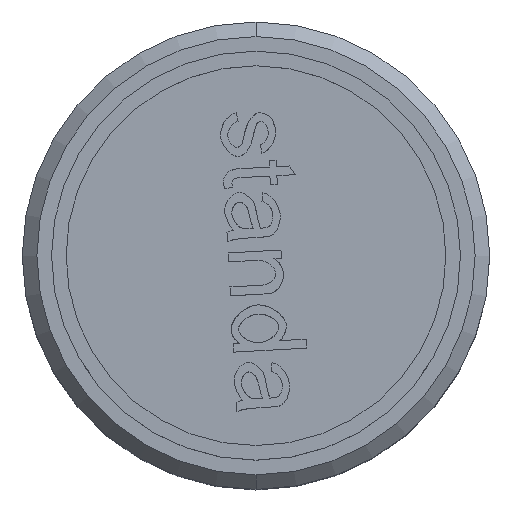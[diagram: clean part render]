
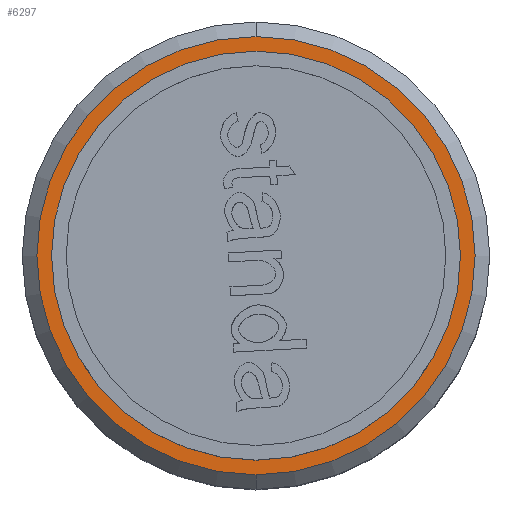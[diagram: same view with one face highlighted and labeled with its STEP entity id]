
A CAD part, top view. The second image highlights one B-rep face of the part: STEP entity #6297.
In plain terms, the highlighted planar face has unit normal (0, 0, 1).
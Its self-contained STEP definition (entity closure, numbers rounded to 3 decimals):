
#1443 = DIRECTION ( 'NONE',  ( 0., 1., 0. ) ) ;
#1444 = DIRECTION ( 'NONE',  ( 0., 0., -1. ) ) ;
#1445 = CARTESIAN_POINT ( 'NONE',  ( 0., 0., 30.5 ) ) ;
#1446 = AXIS2_PLACEMENT_3D ( 'NONE', #1445, #1444, #1443 ) ;
#1447 = CIRCLE ( 'NONE', #1446, 7.5 ) ;
#1448 = DIRECTION ( 'NONE',  ( 0., -1., 0. ) ) ;
#1449 = DIRECTION ( 'NONE',  ( 0., 0., 1. ) ) ;
#1450 = CARTESIAN_POINT ( 'NONE',  ( 5.769, -4.792, 30.5 ) ) ;
#1451 = AXIS2_PLACEMENT_3D ( 'NONE', #1450, #1449, #1448 ) ;
#1452 = FACE_BOUND ( 'NONE', #6302, .T. ) ;
#1453 = FACE_OUTER_BOUND ( 'NONE', #6298, .T. ) ;
#1457 = PLANE ( 'NONE',  #1451 ) ;
#1493 = DIRECTION ( 'NONE',  ( 1., 0., 0. ) ) ;
#1494 = DIRECTION ( 'NONE',  ( 0., 0., -1. ) ) ;
#1495 = CARTESIAN_POINT ( 'NONE',  ( 0., 0., 30.5 ) ) ;
#1496 = AXIS2_PLACEMENT_3D ( 'NONE', #1495, #1494, #1493 ) ;
#1501 = CIRCLE ( 'NONE', #1496, 7. ) ;
#2931 = DIRECTION ( 'NONE',  ( 0., 1., 0. ) ) ;
#2932 = DIRECTION ( 'NONE',  ( 0., 0., -1. ) ) ;
#2933 = CARTESIAN_POINT ( 'NONE',  ( 0., 0., 30.5 ) ) ;
#2934 = AXIS2_PLACEMENT_3D ( 'NONE', #2933, #2932, #2931 ) ;
#2938 = CIRCLE ( 'NONE', #2934, 7.5 ) ;
#2987 = CARTESIAN_POINT ( 'NONE',  ( 0., -7.5, 30.5 ) ) ;
#2988 = CARTESIAN_POINT ( 'NONE',  ( 0., 7.5, 30.5 ) ) ;
#3154 = CIRCLE ( 'NONE', #3212, 7. ) ;
#3207 = CARTESIAN_POINT ( 'NONE',  ( 7., 0., 30.5 ) ) ;
#3208 = CARTESIAN_POINT ( 'NONE',  ( -7., 0., 30.5 ) ) ;
#3209 = DIRECTION ( 'NONE',  ( 1., 0., 0. ) ) ;
#3210 = DIRECTION ( 'NONE',  ( 0., 0., -1. ) ) ;
#3211 = CARTESIAN_POINT ( 'NONE',  ( 0., 0., 30.5 ) ) ;
#3212 = AXIS2_PLACEMENT_3D ( 'NONE', #3211, #3210, #3209 ) ;
#5278 = EDGE_CURVE ( 'NONE', #5279, #5280, #2938, .T. ) ;
#5279 = VERTEX_POINT ( 'NONE', #2988 ) ;
#5280 = VERTEX_POINT ( 'NONE', #2987 ) ;
#5397 = EDGE_CURVE ( 'NONE', #5398, #5399, #3154, .T. ) ;
#5398 = VERTEX_POINT ( 'NONE', #3208 ) ;
#5399 = VERTEX_POINT ( 'NONE', #3207 ) ;
#6297 = ADVANCED_FACE ( 'NONE', ( #1453, #1452 ), #1457, .T. ) ;
#6298 = EDGE_LOOP ( 'NONE', ( #6299, #6300 ) ) ;
#6299 = ORIENTED_EDGE ( 'NONE', *, *, #5278, .F. ) ;
#6300 = ORIENTED_EDGE ( 'NONE', *, *, #6301, .F. ) ;
#6301 = EDGE_CURVE ( 'NONE', #5280, #5279, #1447, .T. ) ;
#6302 = EDGE_LOOP ( 'NONE', ( #6303, #6314 ) ) ;
#6303 = ORIENTED_EDGE ( 'NONE', *, *, #6311, .T. ) ;
#6311 = EDGE_CURVE ( 'NONE', #5399, #5398, #1501, .T. ) ;
#6314 = ORIENTED_EDGE ( 'NONE', *, *, #5397, .T. ) ;
